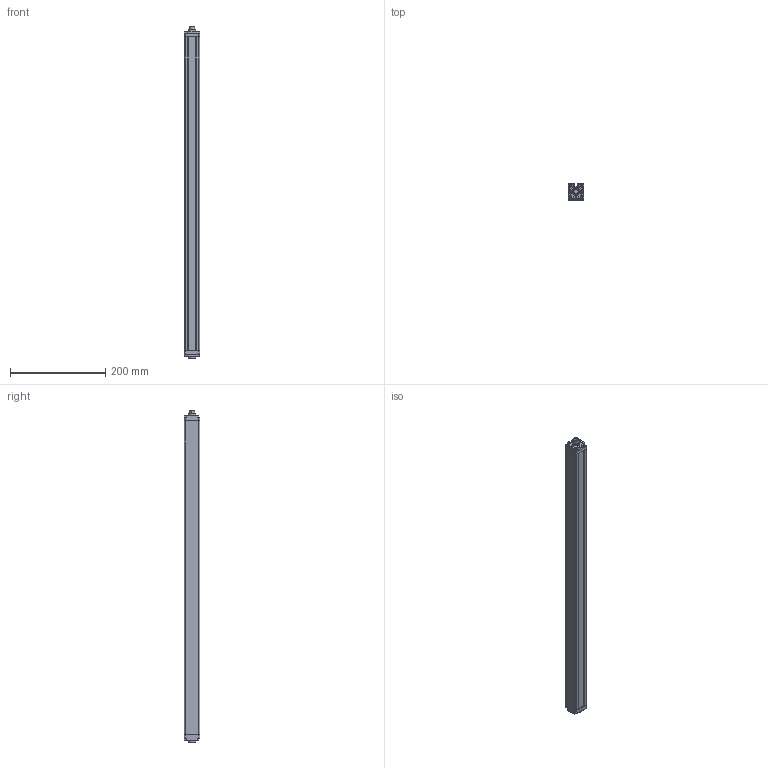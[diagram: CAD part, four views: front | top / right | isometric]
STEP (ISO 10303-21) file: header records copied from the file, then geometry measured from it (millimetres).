
FILE_DESCRIPTION(/* description */ (''),/* implementation_level */ '2;1');
FILE_NAME(/* name */ 'TYG20-32.stp',/* time_stamp */ '2023-08-24T10:55:06+08:00',/* author */ (''),/* organization */ (''),/* preprocessor_version */ 'ST-DEVELOPER v16',/* originating_system */ 'SIEMENS PLM Software NX 11.0',/* authorisation */ '');
FILE_SCHEMA (('AUTOMOTIVE_DESIGN { 1 0 10303 214 3 1 1 1 }'));
Length unit declared in the file: millimetre
Products named in the file (5): YAKELI; B-0823; K-0823; 20230331; TYG20-_stp
Assembly tree (4 placements, depth 2):
  TYG20-_stp
    20230331
    K-0823
    B-0823
    YAKELI
Bounding box: 31.87 x 33.07 x 698 mm (x, y, z)
Volume: 230756.4 mm3; surface area: 242291.4 mm2
Topology: 4 solids, 4 shells, 629 faces, 1887 edges, 1256 vertices
Faces by surface type: plane 346, cylinder 203, cone 36, sphere 16, torus 16, extrusion 8, bspline 4
Entity records: 21873 total; most frequent: CARTESIAN_POINT 4475, ORIENTED_EDGE 3758, DIRECTION 3551, EDGE_CURVE 1879, VERTEX_POINT 1256, AXIS2_PLACEMENT_3D 1188, VECTOR 1175, LINE 1167
